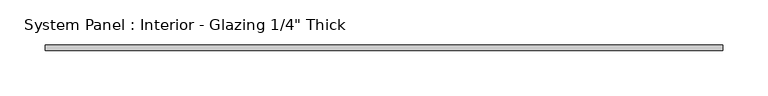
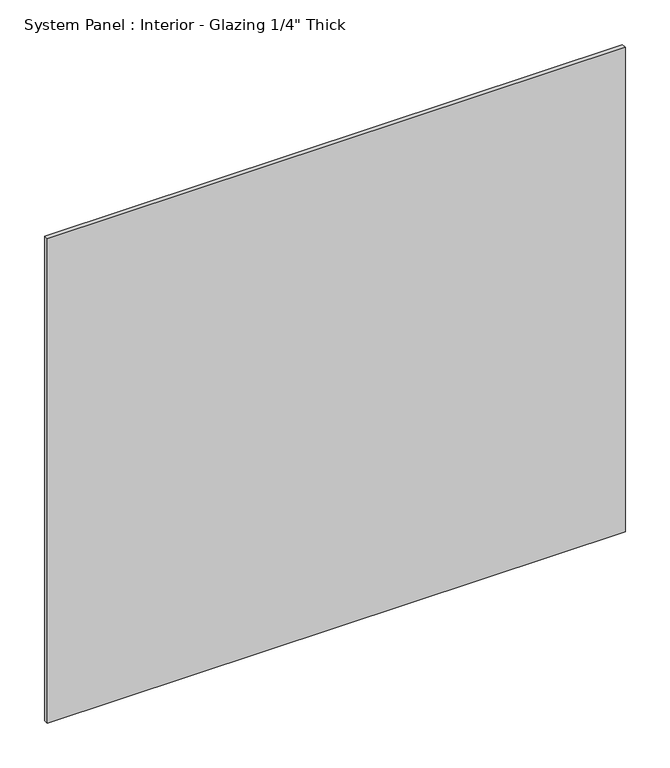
"""IFC4 building model written with IfcOpenShell, lengths in millimetres: plate geometry."""

from ifc_helpers import new_model, si_unit, origin, origin_with_axes, place, context, project, spatial, polyline, outline, extrude, source, transform, mapped, element, save


def plate_6a2117e0(model_context):
    return source(origin(), model_context, "Body", "SweptSolid", [
        extrude(outline(polyline([(374.65, -3.175), (-374.65, -3.175), (-374.65, 3.175), (374.65, 3.175), (374.65, -3.175)])), origin_with_axes(), (0.0, 0.0, 1.0), 663.7598407),
    ])


if __name__ == "__main__":
    model = new_model("IFC4")
    model_context = context("Model", 3, world=origin())
    ifc_project = project(units=[si_unit("LENGTHUNIT", "METRE", prefix="MILLI")], contexts=[model_context])
    site = spatial("IfcSite", under=ifc_project)
    building = spatial("IfcBuilding", under=site)
    placement = place(None, origin())
    plate_shape = plate_6a2117e0(model_context)
    element("IfcPlate", 1, ObjectType="System Panel : Interior - Glazing 1/4\" Thick", at=placement, inside=building, context=model_context, shape_type="MappedRepresentation", body=[
        mapped(plate_shape, transform((0.0, 0.0, 0.0), x_axis=(1.0, 0.0, 0.0), y_axis=(0.0, 1.0, 0.0), z_axis=(0.0, 0.0, 1.0))),
    ])
    save(model, "model.ifc")
